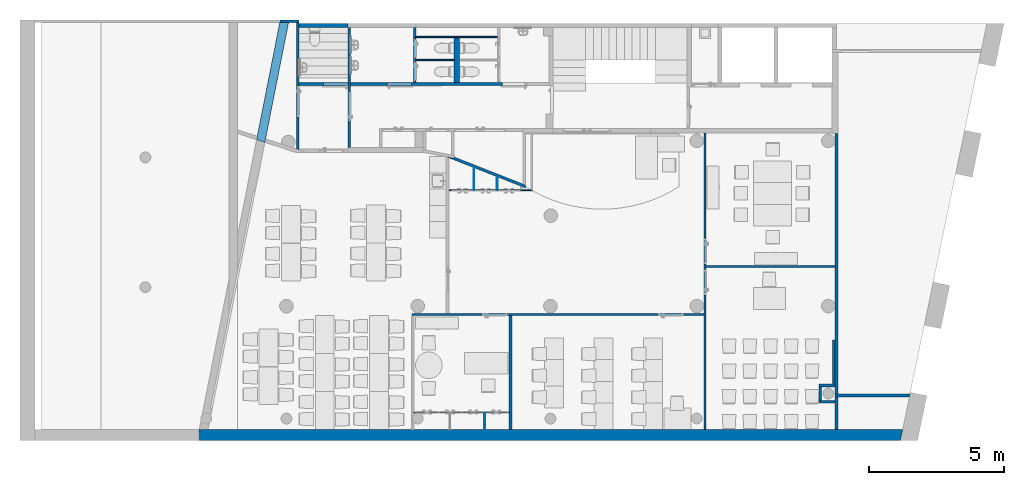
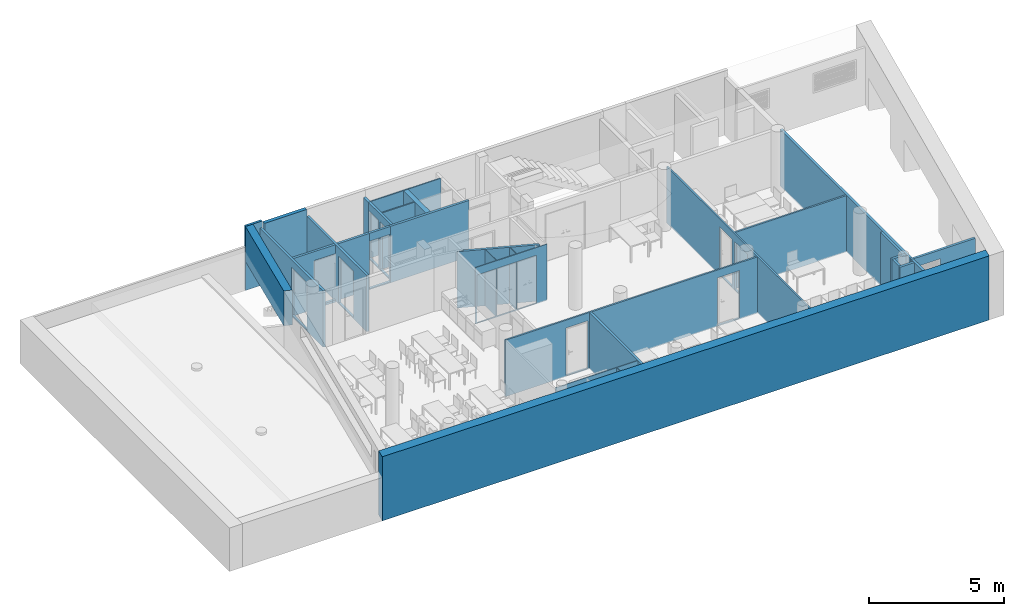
"""IFC4 building model written with IfcOpenShell, lengths in metres."""

import ifcopenshell
import ifcopenshell.guid

model = None  # the IFC model being written
_history = None  # IfcOwnerHistory: only IFC2X3 demands one
_inside = {}  # id of a spatial element -> (the spatial element, [elements in it])
_under = {}  # id of a project, library or spatial element -> (it, [spatial elements below it])
_declared = {}  # id of a project -> (the project, [libraries it declares])
_typed = {}  # id of a type object -> (the type object, [elements of that type])
_made_of = {}  # id of a material, layer set ... -> (it, [elements and type objects made of it])


def new_model(schema):
    """Start an empty IFC model of exactly this schema.

    Asked for "IFC4X3", IfcOpenShell would pick the latest addendum, in which some entities
    have other attributes; the version numbers below select the first issue.
    IFC2X3 requires an IfcOwnerHistory on every rooted entity: one is made here for all.
    """
    global model, _history
    if schema == "IFC4X3":
        model = ifcopenshell.file(schema_version=(4, 3, 0, 0))
    else:
        model = ifcopenshell.file(schema=schema)
    _inside.clear()
    _under.clear()
    _declared.clear()
    _typed.clear()
    _made_of.clear()
    _history = None
    if model.schema == "IFC2X3":
        org = make("IfcOrganization", Name="unknown")
        user = make(
            "IfcPersonAndOrganization",
            ThePerson=make("IfcPerson", FamilyName="unknown"),
            TheOrganization=org,
        )
        app = make(
            "IfcApplication",
            ApplicationDeveloper=org,
            Version="unknown",
            ApplicationFullName="unknown",
            ApplicationIdentifier="unknown",
        )
        _history = make(
            "IfcOwnerHistory",
            OwningUser=user,
            OwningApplication=app,
            ChangeAction="ADDED",
            CreationDate=0,
        )
    return model


def make(cls, **values):
    """One entity of the class cls with the attributes given. An attribute that is None is left unset."""
    return model.create_entity(
        cls, **{name: value for name, value in values.items() if value is not None}
    )


def entity(cls, *values):
    """Any entity or typed value of the class cls, its attributes in the order of the schema. None: left unset."""
    e = model.create_entity(cls)
    for i, value in enumerate(values):
        if value is not None:
            e[i] = value
    return e


def rooted(cls, **values):
    """An entity with a GlobalId (a new one), such as an element, a storey or a relation."""
    return make(cls, GlobalId=ifcopenshell.guid.new(), OwnerHistory=_history, **values)


def si_unit(unit_type, name, prefix=None):
    """IfcSIUnit, for example si_unit("LENGTHUNIT", "METRE", prefix="MILLI")."""
    return make("IfcSIUnit", UnitType=unit_type, Prefix=prefix, Name=name)


def converted_unit(unit_type, name, factor, base, dimensions=None, offset=None):
    """IfcConversionBasedUnit, such as the inch: factor (a typed value) times the base unit."""
    return make(
        "IfcConversionBasedUnit"
        if offset is None
        else "IfcConversionBasedUnitWithOffset",
        ConversionOffset=offset,
        Dimensions=None
        if dimensions is None
        else entity("IfcDimensionalExponents", *dimensions),
        UnitType=unit_type,
        Name=name,
        ConversionFactor=make(
            "IfcMeasureWithUnit", ValueComponent=factor, UnitComponent=base
        ),
    )


def derived_unit(unit_type, elements):
    """IfcDerivedUnit: a product of units, each with its exponent."""
    return make(
        "IfcDerivedUnit",
        Elements=[
            make("IfcDerivedUnitElement", Unit=unit, Exponent=power)
            for unit, power in elements
        ],
        UnitType=unit_type,
    )


def assignment(units):
    """IfcUnitAssignment: the units of a project."""
    return None if units is None else make("IfcUnitAssignment", Units=units)


def point(xyz):
    """IfcCartesianPoint."""
    return None if xyz is None else make("IfcCartesianPoint", Coordinates=xyz)


def direction(xyz):
    """IfcDirection."""
    return None if xyz is None else make("IfcDirection", DirectionRatios=xyz)


def frame(location, z_axis=None, x_axis=None):
    """IfcAxis2Placement3D, a coordinate frame: its origin and axes. An axis left out is left unset."""
    return make(
        "IfcAxis2Placement3D",
        Location=point(location),
        Axis=direction(z_axis),
        RefDirection=direction(x_axis),
    )


def frame_2d(location, x_axis=None):
    """IfcAxis2Placement2D, a coordinate frame in the plane: its origin and x axis."""
    return make(
        "IfcAxis2Placement2D", Location=point(location), RefDirection=direction(x_axis)
    )


def origin():
    """The frame at (0, 0, 0) with its axes left unset."""
    return frame((0.0, 0.0, 0.0))


def origin_with_axes():
    """The frame at (0, 0, 0) with the z axis (0, 0, 1) and the x axis (1, 0, 0) written out."""
    return frame((0.0, 0.0, 0.0), z_axis=(0.0, 0.0, 1.0), x_axis=(1.0, 0.0, 0.0))


def place(relative_to, where):
    """IfcLocalPlacement: puts the frame where relative to a parent placement (None: the world)."""
    return make(
        "IfcLocalPlacement", PlacementRelTo=relative_to, RelativePlacement=where
    )


def context(
    kind, dimensions, precision=None, world=None, true_north=None, identifier=None
):
    """IfcGeometricRepresentationContext, for example the 3D "Model" context."""
    return make(
        "IfcGeometricRepresentationContext",
        ContextIdentifier=identifier,
        ContextType=kind,
        CoordinateSpaceDimension=dimensions,
        Precision=precision,
        WorldCoordinateSystem=world,
        TrueNorth=true_north,
    )


def subcontext(parent, identifier, kind, view, scale=None):
    """IfcGeometricRepresentationSubContext, for example "Body" below "Model"."""
    return make(
        "IfcGeometricRepresentationSubContext",
        ContextIdentifier=identifier,
        ContextType=kind,
        ParentContext=parent,
        TargetScale=scale,
        TargetView=view,
    )


def project(units=None, contexts=None):
    """IfcProject with its units and contexts."""
    return rooted(
        "IfcProject",
        Name="project",
        RepresentationContexts=contexts,
        UnitsInContext=assignment(units),
    )


def spatial(cls, under=None, at=None, **own):
    """A site, building, storey or space (cls), placed at a placement, below another one or the project."""
    s = rooted(cls, ObjectPlacement=at, **own)
    if under is not None:
        _under.setdefault(under.id(), (under, []))[1].append(s)
    return s


def polyline(points):
    """IfcPolyline through the points."""
    return make("IfcPolyline", Points=[point(p) for p in points])


def profile(cls, at=None, kind="AREA", **sizes):
    """A parametric profile (cls). Its sizes go by their IFC names, for example OverallWidth=200.0."""
    return make(cls, ProfileType=kind, Position=at, **sizes)


def rectangle(**sizes):
    """IfcRectangleProfileDef."""
    return profile("IfcRectangleProfileDef", **sizes)


def outline(outer, holes=None, kind="AREA"):
    """IfcArbitraryClosedProfileDef: a profile drawn as a closed curve; with holes, ...WithVoids."""
    if holes is None:
        return make("IfcArbitraryClosedProfileDef", ProfileType=kind, OuterCurve=outer)
    return make(
        "IfcArbitraryProfileDefWithVoids",
        ProfileType=kind,
        OuterCurve=outer,
        InnerCurves=holes,
    )


def extrude(swept, where, along, depth):
    """IfcExtrudedAreaSolid: the profile swept, set in the frame where, extruded along a direction by depth."""
    return make(
        "IfcExtrudedAreaSolid",
        SweptArea=swept,
        Position=where,
        ExtrudedDirection=direction(along),
        Depth=depth,
    )


def shape(context_of_items, identifier, shape_type, items):
    """IfcShapeRepresentation: the items that make up one representation, for example the "Body"."""
    return make(
        "IfcShapeRepresentation",
        ContextOfItems=context_of_items,
        RepresentationIdentifier=identifier,
        RepresentationType=shape_type,
        Items=items,
    )


def material(Name=None, Category=None):
    """IfcMaterial."""
    return make("IfcMaterial", Name=Name, Category=Category)


def layer(
    of_material, thickness, ventilated=None, Name=None, Category=None, Priority=None
):
    """IfcMaterialLayer: one layer of a wall or slab, of a material (None: an air gap)."""
    return make(
        "IfcMaterialLayer",
        Material=of_material,
        LayerThickness=thickness,
        IsVentilated=ventilated,
        Name=Name,
        Category=Category,
        Priority=Priority,
    )


def layer_set(layers, Name=None):
    """IfcMaterialLayerSet."""
    return make("IfcMaterialLayerSet", MaterialLayers=layers, LayerSetName=Name)


def layer_usage(for_layer_set, set_direction, sense, offset, extent=None):
    """IfcMaterialLayerSetUsage: how a layer set lies in its element."""
    return make(
        "IfcMaterialLayerSetUsage",
        ForLayerSet=for_layer_set,
        LayerSetDirection=set_direction,
        DirectionSense=sense,
        OffsetFromReferenceLine=offset,
        ReferenceExtent=extent,
    )


def made_of(thing, what):
    """Note that an element or type object is made of a material, layer set ...; save() writes the relation."""
    if what is not None:
        _made_of.setdefault(what.id(), (what, []))[1].append(thing)
    return thing


def element(
    cls,
    number,
    at=None,
    inside=None,
    cuts=None,
    type_object=None,
    material=None,
    context=None,
    identifier="Body",
    shape_type=None,
    held_by="IfcProductDefinitionShape",
    body=None,
    shapes=None,
    **own,
):
    """One element of the class cls, such as IfcWall. Its Tag is "e" and its number.

    at: its placement. inside: the storey or other place that contains it. cuts: it is an
    opening in that element (IfcRelVoidsElement). A single representation is given by context,
    identifier, shape_type and body (its items); several are given by shapes. held_by: the class
    of the entity that holds the representations. save() writes the other relations.
    """
    e = rooted(cls, Tag="e%d" % number, ObjectPlacement=at, **own)
    if body is not None:
        shapes = [shape(context, identifier, shape_type, body)]
    if shapes is not None:
        e.Representation = make(held_by, Representations=shapes)
    if inside is not None:
        _inside.setdefault(inside.id(), (inside, []))[1].append(e)
    if cuts is not None:
        rooted(
            "IfcRelVoidsElement", RelatingBuildingElement=cuts, RelatedOpeningElement=e
        )
    if type_object is not None:
        _typed.setdefault(type_object.id(), (type_object, []))[1].append(e)
    return made_of(e, material)


def aggregate(whole, parts):
    """IfcRelAggregates: a whole, such as a stair, and the parts it consists of."""
    return rooted("IfcRelAggregates", RelatingObject=whole, RelatedObjects=parts)


def save(model, path):
    """Write the relations noted so far, then the file.

    IfcRelAggregates (storeys below a building ...), IfcRelContainedInSpatialStructure (elements
    in a storey), IfcRelDefinesByType, IfcRelAssociatesMaterial and IfcRelDeclares: one each for
    every whole, place, type object, material and project.
    """
    for whole, parts in _under.values():
        aggregate(whole, parts)
    for where, things in _inside.values():
        rooted(
            "IfcRelContainedInSpatialStructure",
            RelatedElements=things,
            RelatingStructure=where,
        )
    for kind, things in _typed.values():
        rooted("IfcRelDefinesByType", RelatedObjects=things, RelatingType=kind)
    for what, things in _made_of.values():
        rooted("IfcRelAssociatesMaterial", RelatedObjects=things, RelatingMaterial=what)
    for by, libraries in _declared.values():
        rooted("IfcRelDeclares", RelatingContext=by, RelatedDefinitions=libraries)
    model.write(path)


model = new_model("IFC4")

# Units and contexts
model_context = context("Model", 3, precision=1e-05, world=origin())
body_context = subcontext(model_context, "Body", "Model", "MODEL_VIEW")
ifc_project = project(units=[si_unit("LENGTHUNIT", "METRE"), si_unit("AREAUNIT", "SQUARE_METRE"), si_unit("VOLUMEUNIT", "CUBIC_METRE"), si_unit("MASSUNIT", "GRAM", prefix="KILO"), converted_unit("PLANEANGLEUNIT", "DEGREE", entity("IfcPlaneAngleMeasure", 0.0174532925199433), si_unit("PLANEANGLEUNIT", "RADIAN"), dimensions=[0, 0, 0, 0, 0, 0, 0]), derived_unit("THERMALTRANSMITTANCEUNIT", [(si_unit("POWERUNIT", "WATT"), 1), (si_unit("THERMODYNAMICTEMPERATUREUNIT", "KELVIN"), -1), (si_unit("LENGTHUNIT", "METRE"), -2)]), derived_unit("VOLUMETRICFLOWRATEUNIT", [(si_unit("LENGTHUNIT", "METRE"), 3), (converted_unit("TIMEUNIT", "hour", entity("IfcTimeMeasure", 3600.0), si_unit("TIMEUNIT", "SECOND"), dimensions=[0, 0, 1, 0, 0, 0, 0]), -1), (si_unit("LENGTHUNIT", "METRE"), -1)])], contexts=[model_context])

# Building, storeys
building_placement = place(None, origin())
building = spatial("IfcBuilding", under=ifc_project, at=building_placement, Name="HABITATGE PLURIFAMILIAR", CompositionType="ELEMENT")
storey_1_placement = place(building_placement, frame((0.0, 0.0, 3.35)))
storey_1 = spatial("IfcBuildingStorey", under=building, at=storey_1_placement, Name="PLANTA  ALTELL", CompositionType="ELEMENT", Elevation=3.35)
storey_2_placement = place(storey_1_placement, origin())
storey_2 = spatial("IfcBuildingStorey", under=storey_1, at=storey_2_placement, Name="NOU", CompositionType="PARTIAL")

# Wall, opening
ifc_material_1 = material()
ifc_layer_1 = layer(ifc_material_1, 0.1)
ifc_layer_set_1 = layer_set([ifc_layer_1])
ifc_layer_usage_1 = layer_usage(ifc_layer_set_1, "AXIS2", "POSITIVE", 0.0)
wall_1_placement = place(storey_2_placement, frame((403.357142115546, 23.6495914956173, -0.05), z_axis=(0.0, 0.0, 1.0), x_axis=(0.0, 1.0, 0.0)))
wall_1 = element("IfcWall", 1, at=wall_1_placement, inside=storey_2, material=ifc_layer_usage_1, Name="Evans PA", context=body_context, shape_type="SweptSolid", body=[
    extrude(rectangle(XDim=4.42865640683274, YDim=0.1, at=frame_2d((2.21432820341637, 0.05), x_axis=(1.0, 0.0))), origin_with_axes(), (0.0, 0.0, 1.0), 2.55),
])
opening_1_placement = place(wall_1_placement, frame((2.07999999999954, 0.1, 0.05), z_axis=(0.0, -1.0, 0.0), x_axis=(0.0, 0.0, 1.0)))
element("IfcOpeningElement", 2, at=opening_1_placement, cuts=wall_1, Name="Vano de puerta PA", ObjectType="Opening", context=body_context, shape_type="SweptSolid", body=[
    extrude(outline(polyline([(2.1, 1.12), (2.1, 0.0), (0.0, 0.0), (0.0, 1.12), (2.1, 1.12)])), origin_with_axes(), (0.0, 0.0, 1.0), 0.1),
])

# Wall
ifc_material_2 = material()
ifc_layer_2 = layer(ifc_material_2, 0.0999999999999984)
ifc_layer_set_2 = layer_set([ifc_layer_2])
ifc_layer_usage_2 = layer_usage(ifc_layer_set_2, "AXIS2", "POSITIVE", 0.0)
wall_2_placement = place(storey_2_placement, frame((406.916936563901, 23.3019220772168, -0.05), z_axis=(0.0, 0.0, 1.0), x_axis=(0.930522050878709, -0.366235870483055, 0.0)))
element("IfcWall", 3, at=wall_2_placement, inside=storey_2, material=ifc_layer_usage_2, Name="Evans PA", context=body_context, shape_type="SweptSolid", body=[
    extrude(outline(polyline([(-0.417967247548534, 1.061959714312), (1.55853543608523, 1.061959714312), (1.55779434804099, 1.0638426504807), (1.58465838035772, 1.06384927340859), (1.58540207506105, 1.061959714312), (2.69819810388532, 1.061959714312), (2.65883999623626, 1.161959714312), (-0.176840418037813, 1.16195971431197), (-0.159725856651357, 1.11847550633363), (-0.418667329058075, 1.06941560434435), (-0.417967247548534, 1.061959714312)])), frame((0.417967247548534, -1.061959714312, 0.0), z_axis=(0.0, 0.0, 1.0), x_axis=(1.0, 0.0, 0.0)), (0.0, 0.0, 1.0), 2.55),
])

# Wall, openings
ifc_material_3 = material()
ifc_layer_3 = layer(ifc_material_3, 0.03)
ifc_layer_set_3 = layer_set([ifc_layer_3])
ifc_layer_usage_3 = layer_usage(ifc_layer_set_3, "AXIS2", "POSITIVE", 0.0)
wall_3_placement = place(storey_2_placement, frame((406.991931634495, 22.0635846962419, -0.05)))
wall_3 = element("IfcWall", 4, at=wall_3_placement, inside=storey_2, material=ifc_layer_usage_3, Name="Evans PA", context=body_context, shape_type="SweptSolid", body=[
    extrude(rectangle(XDim=3.07526201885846, YDim=0.03, at=frame_2d((1.53763100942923, 0.015), x_axis=(1.0, 0.0))), origin_with_axes(), (0.0, 0.0, 1.0), 2.55),
])
opening_2_placement = place(wall_3_placement, frame((0.935853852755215, 0.0, 0.05), z_axis=(0.0, 1.0, 0.0), x_axis=(0.0, 0.0, 1.0)))
element("IfcOpeningElement", 5, at=opening_2_placement, cuts=wall_3, Name="Vano de puerta PA", ObjectType="Opening", context=body_context, shape_type="SweptSolid", body=[
    extrude(outline(polyline([(2.15, 0.828330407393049), (2.15, 0.0), (0.0, 0.0), (0.0, 0.828330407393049), (2.15, 0.828330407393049)])), origin_with_axes(), (0.0, 0.0, 1.0), 0.03),
])
opening_3_placement = place(wall_3_placement, frame((1.78918426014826, 0.0, 0.05), z_axis=(0.0, 1.0, 0.0), x_axis=(0.0, 0.0, 1.0)))
element("IfcOpeningElement", 6, at=opening_3_placement, cuts=wall_3, Name="Vano de puerta PA", ObjectType="Opening", context=body_context, shape_type="SweptSolid", body=[
    extrude(outline(polyline([(2.15, 0.839188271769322), (2.15, 0.0), (0.0, 0.0), (0.0, 0.839188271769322), (2.15, 0.839188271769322)])), origin_with_axes(), (0.0, 0.0, 1.0), 0.03),
])
opening_4_placement = place(wall_3_placement, frame((0.0714767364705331, 0.0, 0.05), z_axis=(0.0, 1.0, 0.0), x_axis=(0.0, 0.0, 1.0)))
element("IfcOpeningElement", 7, at=opening_4_placement, cuts=wall_3, Name="Vano de puerta PA", ObjectType="Opening", context=body_context, shape_type="SweptSolid", body=[
    extrude(outline(polyline([(2.15, 0.839188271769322), (2.15, 0.0), (0.0, 0.0), (0.0, 0.839188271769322), (2.15, 0.839188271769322)])), origin_with_axes(), (0.0, 0.0, 1.0), 0.03),
])

# Walls
ifc_material_4 = material()
ifc_layer_4 = layer(ifc_material_4, 0.025)
ifc_layer_set_4 = layer_set([ifc_layer_4])
ifc_layer_usage_4 = layer_usage(ifc_layer_set_4, "AXIS2", "POSITIVE", 0.0)
wall_4_placement = place(storey_2_placement, frame((408.781115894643, 22.0935846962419, -0.05), z_axis=(0.0, 0.0, 1.0), x_axis=(0.0, 1.0, 0.0)))
element("IfcWall", 8, at=wall_4_placement, inside=storey_2, material=ifc_layer_usage_4, Name="Evans PA", context=body_context, shape_type="SweptSolid", body=[
    extrude(outline(polyline([(0.0, -0.025), (0.476662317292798, -0.025), (0.486494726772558, 0.0), (0.0, 0.0), (0.0, -0.025)])), frame((0.0, 0.025, 0.0), z_axis=(0.0, 0.0, 1.0), x_axis=(1.0, 0.0, 0.0)), (0.0, 0.0, 1.0), 2.55),
])
ifc_material_5 = material()
ifc_layer_5 = layer(ifc_material_5, 0.025)
ifc_layer_set_5 = layer_set([ifc_layer_5])
ifc_layer_usage_5 = layer_usage(ifc_layer_set_5, "AXIS2", "POSITIVE", 0.0)
wall_5_placement = place(storey_2_placement, frame((407.927938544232, 22.0935846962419, -0.05), z_axis=(0.0, 0.0, 1.0), x_axis=(0.0, 1.0, 0.0)))
element("IfcWall", 9, at=wall_5_placement, inside=storey_2, material=ifc_layer_usage_5, Name="Evans PA", context=body_context, shape_type="SweptSolid", body=[
    extrude(outline(polyline([(0.0, -0.025), (0.810426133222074, -0.025), (0.820265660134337, 0.0), (0.0, 0.0), (0.0, -0.025)])), frame((0.0, 0.025, 0.0), z_axis=(0.0, 0.0, 1.0), x_axis=(1.0, 0.0, 0.0)), (0.0, 0.0, 1.0), 2.55),
])

# Wall, openings
ifc_material_6 = material()
ifc_layer_6 = layer(ifc_material_6, 0.07)
ifc_layer_set_6 = layer_set([ifc_layer_6])
ifc_layer_usage_6 = layer_usage(ifc_layer_set_6, "AXIS2", "POSITIVE", 0.0)
wall_6_placement = place(storey_2_placement, frame((416.412010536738, 17.5196064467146, -0.05), z_axis=(0.0, 0.0, 1.0), x_axis=(-1.0, 0.0, 0.0)))
wall_6 = element("IfcWall", 10, at=wall_6_placement, inside=storey_2, material=ifc_layer_usage_6, Name="Evans PA", context=body_context, shape_type="SweptSolid", body=[
    extrude(rectangle(XDim=10.789892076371, YDim=0.07, at=frame_2d((5.3949460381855, 0.035), x_axis=(1.0, 0.0))), origin_with_axes(), (0.0, 0.0, 1.0), 2.55),
])
opening_5_placement = place(wall_6_placement, frame((0.769992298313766, 0.0, 0.05), z_axis=(0.0, 1.0, 0.0), x_axis=(0.0, 0.0, 1.0)))
element("IfcOpeningElement", 11, at=opening_5_placement, cuts=wall_6, Name="Vano de puerta PA", ObjectType="Opening", context=body_context, shape_type="SweptSolid", body=[
    extrude(outline(polyline([(2.15, 0.94), (2.15, 0.0), (0.0, 0.0), (0.0, 0.94), (2.15, 0.94)])), origin_with_axes(), (0.0, 0.0, 1.0), 0.07),
])
opening_6_placement = place(wall_6_placement, frame((7.26989796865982, 0.0, 0.05), z_axis=(0.0, 1.0, 0.0), x_axis=(0.0, 0.0, 1.0)))
element("IfcOpeningElement", 12, at=opening_6_placement, cuts=wall_6, Name="Vano de puerta PA", ObjectType="Opening", context=body_context, shape_type="SweptSolid", body=[
    extrude(outline(polyline([(2.15, 0.94), (2.15, 0.0), (0.0, 0.0), (0.0, 0.94), (2.15, 0.94)])), origin_with_axes(), (0.0, 0.0, 1.0), 0.07),
])

# Walls
ifc_material_7 = material()
ifc_layer_7 = layer(ifc_material_7, 0.1)
ifc_layer_set_7 = layer_set([ifc_layer_7])
ifc_layer_usage_7 = layer_usage(ifc_layer_set_7, "AXIS2", "POSITIVE", 0.0)
wall_7_placement = place(storey_2_placement, frame((409.312081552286, 13.2406121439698, -0.05), z_axis=(0.0, 0.0, 1.0), x_axis=(0.0, 1.0, 0.0)))
element("IfcWall", 13, at=wall_7_placement, inside=storey_2, material=ifc_layer_usage_7, Name="Evans PA", context=body_context, shape_type="SweptSolid", body=[
    extrude(rectangle(XDim=4.20899430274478, YDim=0.1, at=frame_2d((2.10449715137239, 0.05), x_axis=(1.0, 0.0))), origin_with_axes(), (0.0, 0.0, 1.0), 2.55),
])
ifc_material_8 = material()
ifc_layer_8 = layer(ifc_material_8, 0.07)
ifc_layer_set_8 = layer_set([ifc_layer_8])
ifc_layer_usage_8 = layer_usage(ifc_layer_set_8, "AXIS2", "POSITIVE", 0.0)
wall_8_placement = place(storey_2_placement, frame((421.246962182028, 19.2995280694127, -0.05), z_axis=(0.0, 0.0, 1.0), x_axis=(-1.0, 0.0, 0.0)))
element("IfcWall", 14, at=wall_8_placement, inside=storey_2, material=ifc_layer_usage_8, Name="Evans PA", context=body_context, shape_type="SweptSolid", body=[
    extrude(rectangle(XDim=4.76495164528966, YDim=0.07, at=frame_2d((2.38247582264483, 0.035), x_axis=(1.0, 0.0))), origin_with_axes(), (0.0, 0.0, 1.0), 2.55),
])

# Wall, opening
ifc_material_9 = material()
ifc_layer_9 = layer(ifc_material_9, 0.1)
ifc_layer_set_9 = layer_set([ifc_layer_9])
ifc_layer_usage_9 = layer_usage(ifc_layer_set_9, "AXIS2", "POSITIVE", 0.0)
wall_9_placement = place(storey_2_placement, frame((401.458743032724, 23.5701517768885, -0.05), z_axis=(0.0, 0.0, 1.0), x_axis=(0.0, 1.0, 0.0)))
wall_9 = element("IfcWall", 15, at=wall_9_placement, inside=storey_2, material=ifc_layer_usage_9, Name="Evans PA", context=body_context, shape_type="SweptSolid", body=[
    extrude(outline(polyline([(0.0, -0.1), (4.69370477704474, -0.1), (4.69370477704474, 0.0), (0.0325220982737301, 0.0), (0.0, -0.1)])), frame((0.0, 0.1, 0.0), z_axis=(0.0, 0.0, 1.0), x_axis=(1.0, 0.0, 0.0)), (0.0, 0.0, 1.0), 2.55),
])
opening_7_placement = place(wall_9_placement, frame((2.34930937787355, 0.1, 0.05), z_axis=(0.0, -1.0, 0.0), x_axis=(0.0, 0.0, 1.0)))
element("IfcOpeningElement", 16, at=opening_7_placement, cuts=wall_9, Name="Vano de puerta PA", ObjectType="Opening", context=body_context, shape_type="SweptSolid", body=[
    extrude(outline(polyline([(2.15, 1.12998869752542), (2.15, 0.0), (0.0, 0.0), (0.0, 1.12998869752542), (2.15, 1.12998869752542)])), origin_with_axes(), (0.0, 0.0, 1.0), 0.1),
])

# Walls
ifc_material_10 = material()
ifc_layer_10 = layer(ifc_material_10, 0.11)
ifc_layer_set_10 = layer_set([ifc_layer_10])
ifc_layer_usage_10 = layer_usage(ifc_layer_set_10, "AXIS2", "POSITIVE", 0.0)
wall_10_placement = place(storey_2_placement, frame((421.356931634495, 13.2406121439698, -0.05), z_axis=(0.0, 0.0, 1.0), x_axis=(0.0, 1.0, 0.0)))
element("IfcWall", 17, at=wall_10_placement, inside=storey_2, material=ifc_layer_usage_10, Name="Evans PA", context=body_context, shape_type="SweptSolid", body=[
    extrude(rectangle(XDim=1.20897935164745, YDim=0.11, at=frame_2d((0.604489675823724, 0.055), x_axis=(1.0, 0.0))), origin_with_axes(), (0.0, 0.0, 1.0), 2.55),
])
ifc_material_11 = material()
ifc_layer_11 = layer(ifc_material_11, 0.05)
ifc_layer_set_11 = layer_set([ifc_layer_11])
ifc_layer_usage_11 = layer_usage(ifc_layer_set_11, "AXIS2", "POSITIVE", 0.0)
wall_11_placement = place(storey_2_placement, frame((405.775867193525, 27.7095914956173, -0.05)))
element("IfcWall", 18, at=wall_11_placement, inside=storey_2, material=ifc_layer_usage_11, Name="Evans PA", context=body_context, shape_type="SweptSolid", body=[
    extrude(rectangle(XDim=3.00106444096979, YDim=0.05, at=frame_2d((1.50053222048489, 0.025), x_axis=(1.0, 0.0))), origin_with_axes(), (0.0, 0.0, 1.0), 2.55),
])
ifc_material_12 = material()
ifc_layer_12 = layer(ifc_material_12, 0.2)
ifc_layer_set_12 = layer_set([ifc_layer_12])
ifc_layer_usage_12 = layer_usage(ifc_layer_set_12, "AXIS2", "POSITIVE", 0.0)
wall_12_placement = place(storey_2_placement, frame((407.176931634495, 27.7095914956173, -0.05), z_axis=(0.0, 0.0, 1.0), x_axis=(0.0, -1.0, 0.0)))
element("IfcWall", 19, at=wall_12_placement, inside=storey_2, material=ifc_layer_usage_12, Name="Evans PA", context=body_context, shape_type="SweptSolid", body=[
    extrude(outline(polyline([(-0.810455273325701, 0.0), (0.0, 0.0), (0.0, 0.2), (-1.66045527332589, 0.2), (-1.6604552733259, 0.0), (-0.860455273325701, 0.0), (-0.860455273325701, 0.00255504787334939), (-0.810455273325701, 0.00255504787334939), (-0.810455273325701, 0.0)])), frame((1.6604552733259, 0.0, 0.0), z_axis=(0.0, 0.0, 1.0), x_axis=(1.0, 0.0, 0.0)), (0.0, 0.0, 1.0), 2.55),
])
ifc_material_13 = material()
ifc_layer_13 = layer(ifc_material_13, 0.05)
ifc_layer_set_13 = layer_set([ifc_layer_13])
ifc_layer_usage_13 = layer_usage(ifc_layer_set_13, "AXIS2", "POSITIVE", 0.0)
wall_13_placement = place(storey_2_placement, frame((405.775867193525, 26.8595914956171, -0.05)))
element("IfcWall", 20, at=wall_13_placement, inside=storey_2, material=ifc_layer_usage_13, Name="Evans PA", context=body_context, shape_type="SweptSolid", body=[
    extrude(rectangle(XDim=1.40361948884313, YDim=0.05, at=frame_2d((0.701809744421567, 0.025), x_axis=(1.0, 0.0))), origin_with_axes(), (0.0, 0.0, 1.0), 2.55),
])

# Wall, opening
ifc_material_14 = material()
ifc_layer_14 = layer(ifc_material_14, 0.1)
ifc_layer_set_14 = layer_set([ifc_layer_14])
ifc_layer_usage_14 = layer_usage(ifc_layer_set_14, "AXIS2", "POSITIVE", 0.0)
wall_14_placement = place(storey_2_placement, frame((424.012097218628, 14.5495923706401, -0.05), z_axis=(0.0, 0.0, 1.0), x_axis=(-1.0, 0.0, 0.0)))
wall_14 = element("IfcWall", 21, at=wall_14_placement, inside=storey_2, material=ifc_layer_usage_14, Name="Evans PA", context=body_context, shape_type="SweptSolid", body=[
    extrude(outline(polyline([(-2.76513395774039, -0.1), (0.0, -0.1), (-2.27131531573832e-08, 0.0), (-2.74443133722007, 0.0), (-2.76513395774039, -0.1)])), frame((2.76513395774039, 0.1, 0.0), z_axis=(0.0, 0.0, 1.0), x_axis=(1.0, 0.0, 0.0)), (0.0, 0.0, 1.0), 2.55),
])
opening_8_placement = place(wall_14_placement, frame((2.54703331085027, 0.1, 1.25), z_axis=(0.0, -1.0, 0.0), x_axis=(0.0, 0.0, 1.0)))
element("IfcOpeningElement", 22, at=opening_8_placement, cuts=wall_14, Name="Vano dei finestra PA", ObjectType="Opening", context=body_context, shape_type="SweptSolid", body=[
    extrude(outline(polyline([(0.9, 1.04746529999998), (0.9, 0.0), (0.0, 0.0), (0.0, 1.04746529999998), (0.9, 1.04746529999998)])), origin_with_axes(), (0.0, 0.0, 1.0), 0.1),
])

# Wall, openings
ifc_material_15 = material()
ifc_layer_15 = layer(ifc_material_15, 0.07)
ifc_layer_set_15 = layer_set([ifc_layer_15])
ifc_layer_usage_15 = layer_usage(ifc_layer_set_15, "AXIS2", "POSITIVE", 0.0)
wall_15_placement = place(storey_2_placement, frame((416.412010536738, 24.1995914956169, -0.05), z_axis=(0.0, 0.0, 1.0), x_axis=(0.0, -1.0, 0.0)))
wall_15 = element("IfcWall", 23, at=wall_15_placement, inside=storey_2, material=ifc_layer_usage_15, Name="Evans PA", context=body_context, shape_type="SweptSolid", body=[
    extrude(rectangle(XDim=10.9591798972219, YDim=0.07, at=frame_2d((5.47958994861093, 0.035), x_axis=(1.0, 0.0))), origin_with_axes(), (0.0, 0.0, 1.0), 2.55),
])
opening_9_placement = place(wall_15_placement, frame((3.91007402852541, 0.0, 0.05), z_axis=(0.0, 1.0, 0.0), x_axis=(0.0, 0.0, 1.0)))
element("IfcOpeningElement", 24, at=opening_9_placement, cuts=wall_15, Name="Vano de puerta PA", ObjectType="Opening", context=body_context, shape_type="SweptSolid", body=[
    extrude(outline(polyline([(2.15, 0.94), (2.15, 0.0), (0.0, 0.0), (0.0, 0.94), (2.15, 0.94)])), origin_with_axes(), (0.0, 0.0, 1.0), 0.07),
])
opening_10_placement = place(wall_15_placement, frame((5.04258139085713, 0.0, 0.05), z_axis=(0.0, 1.0, 0.0), x_axis=(0.0, 0.0, 1.0)))
element("IfcOpeningElement", 25, at=opening_10_placement, cuts=wall_15, Name="Vano de puerta PA", ObjectType="Opening", context=body_context, shape_type="SweptSolid", body=[
    extrude(outline(polyline([(2.15, 0.94), (2.15, 0.0), (0.0, 0.0), (0.0, 0.94), (2.15, 0.94)])), origin_with_axes(), (0.0, 0.0, 1.0), 0.07),
])

# Walls
ifc_material_16 = material()
ifc_layer_16 = layer(ifc_material_16, 0.110000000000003)
ifc_layer_set_16 = layer_set([ifc_layer_16])
ifc_layer_usage_16 = layer_usage(ifc_layer_set_16, "AXIS2", "POSITIVE", 0.0)
wall_16_placement = place(storey_2_placement, frame((421.356963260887, 14.5495923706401, -0.05), z_axis=(0.0, 0.0, 1.0), x_axis=(-2.27131410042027e-07, 0.999999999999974, 0.0)))
element("IfcWall", 26, at=wall_16_placement, inside=storey_2, material=ifc_layer_usage_16, Name="Mampara PA", context=body_context, shape_type="SweptSolid", body=[
    extrude(rectangle(XDim=9.61988628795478, YDim=0.110000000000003, at=frame_2d((4.80994314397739, 0.0550000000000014), x_axis=(1.0, 0.0))), origin_with_axes(), (0.0, 0.0, 1.0), 2.55),
])
ifc_material_17 = material()
ifc_layer_17 = layer(ifc_material_17, 0.1)
ifc_layer_set_17 = layer_set([ifc_layer_17])
ifc_layer_usage_17 = layer_usage(ifc_layer_set_17, "AXIS2", "POSITIVE", 0.0)
wall_17_placement = place(storey_2_placement, frame((405.775867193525, 27.7095914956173, -0.05), z_axis=(0.0, 0.0, 1.0), x_axis=(0.0, 1.0, 0.0)))
element("IfcWall", 27, at=wall_17_placement, inside=storey_2, material=ifc_layer_usage_17, Name="Evans PA", context=body_context, shape_type="SweptSolid", body=[
    extrude(rectangle(XDim=0.3704962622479, YDim=0.1, at=frame_2d((0.18524813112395, 0.05), x_axis=(1.0, 0.0))), origin_with_axes(), (0.0, 0.0, 1.0), 2.55),
])

# Wall, openings
ifc_material_18 = material()
ifc_layer_18 = layer(ifc_material_18, 0.03)
ifc_layer_set_18 = layer_set([ifc_layer_18])
ifc_layer_usage_18 = layer_usage(ifc_layer_set_18, "AXIS2", "POSITIVE", 0.0)
wall_18_placement = place(storey_2_placement, frame((409.212081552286, 13.8895914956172, -0.05), z_axis=(0.0, 0.0, 1.0), x_axis=(-1.0, 0.0, 0.0)))
wall_18 = element("IfcWall", 28, at=wall_18_placement, inside=storey_2, material=ifc_layer_usage_18, Name="Evans PA", context=body_context, shape_type="SweptSolid", body=[
    extrude(rectangle(XDim=3.51996309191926, YDim=0.03, at=frame_2d((1.75998154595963, 0.015), x_axis=(1.0, 0.0))), origin_with_axes(), (0.0, 0.0, 1.0), 2.55),
])
opening_11_placement = place(wall_18_placement, frame((2.60764991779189, 0.0, 0.05), z_axis=(0.0, 1.0, 0.0), x_axis=(0.0, 0.0, 1.0)))
element("IfcOpeningElement", 29, at=opening_11_placement, cuts=wall_18, Name="Vano de puerta PA", ObjectType="Opening", context=body_context, shape_type="SweptSolid", body=[
    extrude(outline(polyline([(2.15, 0.852499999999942), (2.15, 0.0), (0.0, 0.0), (0.0, 0.852499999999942), (2.15, 0.852499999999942)])), origin_with_axes(), (0.0, 0.0, 1.0), 0.03),
])
opening_12_placement = place(wall_18_placement, frame((0.900149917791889, 0.0, 0.05), z_axis=(0.0, 1.0, 0.0), x_axis=(0.0, 0.0, 1.0)))
element("IfcOpeningElement", 30, at=opening_12_placement, cuts=wall_18, Name="Vano de puerta PA", ObjectType="Opening", context=body_context, shape_type="SweptSolid", body=[
    extrude(outline(polyline([(2.15, 0.854999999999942), (2.15, 0.0), (0.0, 0.0), (0.0, 0.854999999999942), (2.15, 0.854999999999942)])), origin_with_axes(), (0.0, 0.0, 1.0), 0.03),
])
opening_13_placement = place(wall_18_placement, frame((1.75514991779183, 0.0, 0.05), z_axis=(0.0, 1.0, 0.0), x_axis=(0.0, 0.0, 1.0)))
element("IfcOpeningElement", 31, at=opening_13_placement, cuts=wall_18, Name="Vano de puerta PA", ObjectType="Opening", context=body_context, shape_type="SweptSolid", body=[
    extrude(outline(polyline([(2.15, 0.8525), (2.15, 0.0), (0.0, 0.0), (0.0, 0.8525), (2.15, 0.8525)])), origin_with_axes(), (0.0, 0.0, 1.0), 0.03),
])
opening_14_placement = place(wall_18_placement, frame((0.900149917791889, 0.03, 0.05), z_axis=(0.0, -1.0, 0.0), x_axis=(0.0, 0.0, 1.0)))
element("IfcOpeningElement", 32, at=opening_14_placement, cuts=wall_18, Name="Vano de puerta PA", ObjectType="Opening", context=body_context, shape_type="SweptSolid", body=[
    extrude(outline(polyline([(2.15, 0.85), (2.15, 0.0), (0.0, 0.0), (0.0, 0.85), (2.15, 0.85)])), origin_with_axes(), (0.0, 0.0, 1.0), 0.03),
])

# Walls
ifc_material_19 = material()
ifc_layer_19 = layer(ifc_material_19, 0.025)
ifc_layer_set_19 = layer_set([ifc_layer_19])
ifc_layer_usage_19 = layer_usage(ifc_layer_set_19, "AXIS2", "POSITIVE", 0.0)
wall_19_placement = place(storey_2_placement, frame((408.324431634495, 13.2406121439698, -0.05), z_axis=(0.0, 0.0, 1.0), x_axis=(0.0, 1.0, 0.0)))
element("IfcWall", 33, at=wall_19_placement, inside=storey_2, material=ifc_layer_usage_19, Name="Evans PA", context=body_context, shape_type="SweptSolid", body=[
    extrude(rectangle(XDim=0.618979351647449, YDim=0.025, at=frame_2d((0.309489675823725, 0.0125), x_axis=(1.0, 0.0))), origin_with_axes(), (0.0, 0.0, 1.0), 2.55),
])
ifc_material_20 = material()
ifc_layer_20 = layer(ifc_material_20, 0.4)
ifc_layer_set_20 = layer_set([ifc_layer_20])
ifc_layer_usage_20 = layer_usage(ifc_layer_set_20, "AXIS2", "POSITIVE", 0.0)
wall_20_placement = place(storey_2_placement, frame((397.6873116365, 12.8406121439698, -0.1)))
element("IfcWall", 34, at=wall_20_placement, inside=storey_2, material=ifc_layer_usage_20, Name="Mur PA", context=body_context, shape_type="SweptSolid", body=[
    extrude(outline(polyline([(0.0, 0.0), (25.9701704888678, 0.0), (26.0530662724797, 0.4), (0.0791354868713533, 0.4), (0.0, 0.0)])), origin_with_axes(), (0.0, 0.0, 1.0), 2.9),
])
ifc_material_21 = material()
ifc_layer_21 = layer(ifc_material_21, 0.1)
ifc_layer_set_21 = layer_set([ifc_layer_21])
ifc_layer_usage_21 = layer_usage(ifc_layer_set_21, "AXIS2", "POSITIVE", 0.0)
wall_21_placement = place(storey_2_placement, frame((401.458743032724, 28.3638565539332, -0.1), z_axis=(0.0, 0.0, 1.0), x_axis=(-1.0, 0.0, 0.0)))
element("IfcWall", 35, at=wall_21_placement, inside=storey_2, material=ifc_layer_usage_21, Name="Evans PA", context=body_context, shape_type="SweptSolid", body=[
    extrude(outline(polyline([(-0.72011650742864, -0.1), (-0.0197838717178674, -0.1), (0.0, 0.0), (-0.72011650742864, 0.0), (-0.72011650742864, -0.1)])), frame((0.72011650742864, 0.1, 0.0), z_axis=(0.0, 0.0, 1.0), x_axis=(1.0, 0.0, 0.0)), (0.0, 0.0, 1.0), 2.9),
])
ifc_material_22 = material()
ifc_layer_22 = layer(ifc_material_22, 0.319999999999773)
ifc_layer_set_22 = layer_set([ifc_layer_22])
ifc_layer_usage_22 = layer_usage(ifc_layer_set_22, "AXIS2", "POSITIVE", 0.0)
wall_22_placement = place(storey_2_placement, frame((400.190750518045, 23.8457207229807, 1.22), z_axis=(0.0, 0.0, 1.0), x_axis=(0.194077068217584, 0.98098628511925, 0.0)))
element("IfcWall", 36, at=wall_22_placement, inside=storey_2, material=ifc_layer_usage_22, Name="Evans PA", context=body_context, shape_type="SweptSolid", body=[
    extrude(outline(polyline([(0.0594812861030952, -0.300655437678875), (4.66518872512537, -0.300655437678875), (4.60188033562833, 0.0193445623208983), (0.0977794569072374, 0.0193445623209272), (0.0594812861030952, -0.300655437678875)])), frame((-0.0594812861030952, 0.300655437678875, 0.0), z_axis=(0.0, 0.0, 1.0), x_axis=(1.0, 0.0, 0.0)), (0.0, 0.0, 1.0), 1.58),
])
ifc_material_23 = material()
ifc_layer_23 = layer(ifc_material_23, 0.1)
ifc_layer_set_23 = layer_set([ifc_layer_23])
ifc_layer_usage_23 = layer_usage(ifc_layer_set_23, "AXIS2", "POSITIVE", 0.0)
wall_23_placement = place(storey_2_placement, frame((405.606931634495, 25.9491362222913, -0.05)))
element("IfcWall", 37, at=wall_23_placement, inside=storey_2, material=ifc_layer_usage_23, Name="Evans PA", context=body_context, shape_type="SweptSolid", body=[
    extrude(rectangle(XDim=3.36015276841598, YDim=0.1, at=frame_2d((1.68007638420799, 0.05), x_axis=(1.0, 0.0))), origin_with_axes(), (0.0, 0.0, 1.0), 2.55),
])
ifc_material_24 = material()
ifc_layer_24 = layer(ifc_material_24, 0.1)
ifc_layer_set_24 = layer_set([ifc_layer_24])
ifc_layer_usage_24 = layer_usage(ifc_layer_set_24, "AXIS2", "POSITIVE", 0.0)
wall_24_placement = place(storey_2_placement, frame((403.357142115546, 25.9491362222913, -0.05)))
element("IfcWall", 38, at=wall_24_placement, inside=storey_2, material=ifc_layer_usage_24, Name="Evans PA", context=body_context, shape_type="SweptSolid", body=[
    extrude(rectangle(XDim=1.34978951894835, YDim=0.1, at=frame_2d((0.674894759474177, 0.05), x_axis=(1.0, 0.0))), origin_with_axes(), (0.0, 0.0, 1.0), 2.55),
])

# Wall, openings
ifc_material_25 = material()
ifc_layer_25 = layer(ifc_material_25, 0.1)
ifc_layer_set_25 = layer_set([ifc_layer_25])
ifc_layer_usage_25 = layer_usage(ifc_layer_set_25, "AXIS2", "POSITIVE", 0.0)
wall_25_placement = place(storey_2_placement, frame((405.775867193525, 26.0491362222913, -0.05), z_axis=(0.0, 0.0, 1.0), x_axis=(0.0, 1.0, 0.0)))
wall_25 = element("IfcWall", 39, at=wall_25_placement, inside=storey_2, material=ifc_layer_usage_25, Name="Evans PA", context=body_context, shape_type="SweptSolid", body=[
    extrude(rectangle(XDim=1.66045527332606, YDim=0.1, at=frame_2d((0.830227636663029, 0.05), x_axis=(1.0, 0.0))), origin_with_axes(), (0.0, 0.0, 1.0), 2.55),
])
opening_15_placement = place(wall_25_placement, frame((1.63031102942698, 0.1, 0.05), z_axis=(0.0, -1.0, 0.0), x_axis=(0.0, 0.0, 1.0)))
element("IfcOpeningElement", 40, at=opening_15_placement, cuts=wall_25, Name="Vano de puerta PA", ObjectType="Opening", context=body_context, shape_type="SweptSolid", body=[
    extrude(outline(polyline([(2.15, 0.74), (2.15, 0.0), (0.0, 0.0), (0.0, 0.74), (2.15, 0.74)])), origin_with_axes(), (0.0, 0.0, 1.0), 0.1),
])
opening_16_placement = place(wall_25_placement, frame((0.790389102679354, 0.1, 0.05), z_axis=(0.0, -1.0, 0.0), x_axis=(0.0, 0.0, 1.0)))
element("IfcOpeningElement", 41, at=opening_16_placement, cuts=wall_25, Name="Vano de puerta PA", ObjectType="Opening", context=body_context, shape_type="SweptSolid", body=[
    extrude(outline(polyline([(2.15, 0.74), (2.15, 0.0), (0.0, 0.0), (0.0, 0.74), (2.15, 0.74)])), origin_with_axes(), (0.0, 0.0, 1.0), 0.1),
])

# Wall, opening
ifc_material_26 = material()
ifc_layer_26 = layer(ifc_material_26, 0.1)
ifc_layer_set_26 = layer_set([ifc_layer_26])
ifc_layer_usage_26 = layer_usage(ifc_layer_set_26, "AXIS2", "POSITIVE", 0.0)
wall_26_placement = place(storey_2_placement, frame((401.458743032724, 25.9491362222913, -0.1)))
wall_26 = element("IfcWall", 42, at=wall_26_placement, inside=storey_2, material=ifc_layer_usage_26, Name="Evans PA", context=body_context, shape_type="SweptSolid", body=[
    extrude(rectangle(XDim=1.79839908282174, YDim=0.1, at=frame_2d((0.899199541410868, 0.05), x_axis=(1.0, 0.0))), origin_with_axes(), (0.0, 0.0, 1.0), 2.6),
])
opening_17_placement = place(wall_26_placement, frame((1.79839908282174, 0.1, 0.1), z_axis=(0.0, -1.0, 0.0), x_axis=(0.0, 0.0, 1.0)))
element("IfcOpeningElement", 43, at=opening_17_placement, cuts=wall_26, Name="Vano de puerta PA", ObjectType="Opening", context=body_context, shape_type="SweptSolid", body=[
    extrude(outline(polyline([(2.1, 0.9), (2.1, 0.0), (0.0, 0.0), (0.0, 0.9), (2.1, 0.9)])), origin_with_axes(), (0.0, 0.0, 1.0), 0.1),
])

# Walls
ifc_material_27 = material()
ifc_layer_27 = layer(ifc_material_27, 0.15)
ifc_layer_set_27 = layer_set([ifc_layer_27])
ifc_layer_usage_27 = layer_usage(ifc_layer_set_27, "AXIS2", "POSITIVE", 0.0)
wall_27_placement = place(storey_2_placement, frame((403.257142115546, 28.22824790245, -0.1), z_axis=(0.0, 0.0, 1.0), x_axis=(-1.0, 0.0, 0.0)))
element("IfcWall", 44, at=wall_27_placement, inside=storey_2, material=ifc_layer_usage_27, Name="Evans PA", context=body_context, shape_type="SweptSolid", body=[
    extrude(rectangle(XDim=1.79839908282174, YDim=0.15, at=frame_2d((0.899199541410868, 0.075), x_axis=(1.0, 0.0))), origin_with_axes(), (0.0, 0.0, 1.0), 2.9),
])
ifc_material_28 = material()
ifc_layer_28 = layer(ifc_material_28, 0.1)
ifc_layer_set_28 = layer_set([ifc_layer_28])
ifc_layer_usage_28 = layer_usage(ifc_layer_set_28, "AXIS2", "POSITIVE", 0.0)
wall_28_placement = place(storey_2_placement, frame((421.246963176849, 14.9195914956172, -0.05), z_axis=(0.0, 0.0, 1.0), x_axis=(0.0, 1.0, 0.0)))
element("IfcWall", 45, at=wall_28_placement, inside=storey_2, material=ifc_layer_usage_28, Name="Evans PA", context=body_context, shape_type="SweptSolid", body=[
    extrude(rectangle(XDim=1.63119157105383, YDim=0.1, at=frame_2d((0.815595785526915, 0.05), x_axis=(1.0, 0.0))), origin_with_axes(), (0.0, 0.0, 1.0), 2.55),
])
ifc_material_29 = material()
ifc_layer_29 = layer(ifc_material_29, 0.1)
ifc_layer_set_29 = layer_set([ifc_layer_29])
ifc_layer_usage_29 = layer_usage(ifc_layer_set_29, "AXIS2", "POSITIVE", 0.0)
wall_29_placement = place(storey_2_placement, frame((421.246963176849, 14.9195914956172, -0.05), z_axis=(0.0, 0.0, 1.0), x_axis=(-1.0, 0.0, 0.0)))
element("IfcWall", 46, at=wall_29_placement, inside=storey_2, material=ifc_layer_usage_29, Name="Evans PA", context=body_context, shape_type="SweptSolid", body=[
    extrude(rectangle(XDim=0.605031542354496, YDim=0.1, at=frame_2d((0.302515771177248, 0.05), x_axis=(1.0, 0.0))), origin_with_axes(), (0.0, 0.0, 1.0), 2.55),
])
ifc_material_30 = material()
ifc_layer_30 = layer(ifc_material_30, 0.1)
ifc_layer_set_30 = layer_set([ifc_layer_30])
ifc_layer_usage_30 = layer_usage(ifc_layer_set_30, "AXIS2", "POSITIVE", 0.0)
wall_30_placement = place(storey_2_placement, frame((421.246931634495, 14.3195914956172, -0.05), z_axis=(0.0, 0.0, 1.0), x_axis=(-1.0, 0.0, 0.0)))
element("IfcWall", 47, at=wall_30_placement, inside=storey_2, material=ifc_layer_usage_30, Name="Evans PA", context=body_context, shape_type="SweptSolid", body=[
    extrude(rectangle(XDim=0.605, YDim=0.1, at=frame_2d((0.3025, 0.05), x_axis=(1.0, 0.0))), origin_with_axes(), (0.0, 0.0, 1.0), 2.55),
])
ifc_material_31 = material()
ifc_layer_31 = layer(ifc_material_31, 0.1)
ifc_layer_set_31 = layer_set([ifc_layer_31])
ifc_layer_usage_31 = layer_usage(ifc_layer_set_31, "AXIS2", "POSITIVE", 0.0)
wall_31_placement = place(storey_2_placement, frame((420.741931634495, 14.3195914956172, -0.05), z_axis=(0.0, 0.0, 1.0), x_axis=(0.0, 1.0, 0.0)))
element("IfcWall", 48, at=wall_31_placement, inside=storey_2, material=ifc_layer_usage_31, Name="Evans PA", context=body_context, shape_type="SweptSolid", body=[
    extrude(rectangle(XDim=0.49999999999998, YDim=0.1, at=frame_2d((0.24999999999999, 0.05), x_axis=(1.0, 0.0))), origin_with_axes(), (0.0, 0.0, 1.0), 2.55),
])

# Wall, opening
ifc_material_32 = material()
ifc_layer_32 = layer(ifc_material_32, 0.1)
ifc_layer_set_32 = layer_set([ifc_layer_32])
ifc_layer_usage_32 = layer_usage(ifc_layer_set_32, "AXIS2", "POSITIVE", 0.0)
wall_32_placement = place(storey_2_placement, frame((404.706931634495, 25.9491362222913, -0.05)))
wall_32 = element("IfcWall", 49, at=wall_32_placement, inside=storey_2, material=ifc_layer_usage_32, Name="Evans PA", context=body_context, shape_type="SweptSolid", body=[
    extrude(rectangle(XDim=0.9, YDim=0.1, at=frame_2d((0.45, 0.05), x_axis=(1.0, 0.0))), origin_with_axes(), (0.0, 0.0, 1.0), 2.55),
])
opening_18_placement = place(wall_32_placement, frame((0.9, 0.1, 0.05), z_axis=(0.0, -1.0, 0.0), x_axis=(0.0, 0.0, 1.0)))
element("IfcOpeningElement", 50, at=opening_18_placement, cuts=wall_32, Name="Vano de puerta PA", ObjectType="Opening", context=body_context, shape_type="SweptSolid", body=[
    extrude(outline(polyline([(2.15, 0.9), (2.15, 0.0), (0.0, 0.0), (0.0, 0.9), (2.15, 0.9)])), origin_with_axes(), (0.0, 0.0, 1.0), 0.1),
])

save(model, "model.ifc")
